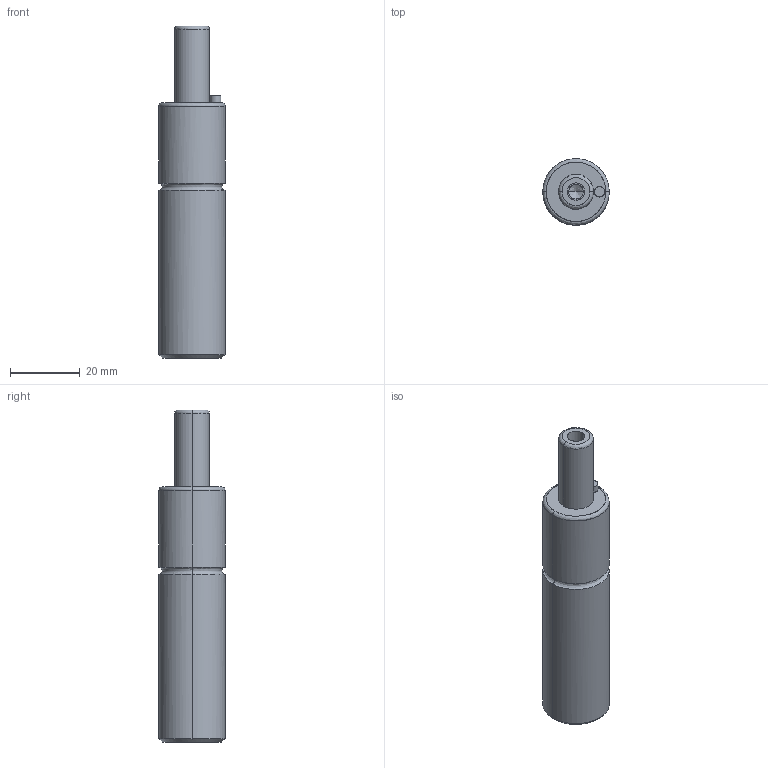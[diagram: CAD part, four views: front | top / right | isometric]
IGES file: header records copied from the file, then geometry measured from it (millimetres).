
Global section: file name: E:\UnigraphicsGraphicData\MISUMI_PRESS-PARTS\IGES\3d_gsm19-20_03907_r00.igs; native system: NX V5.0; preprocessor: UGS NX IGES V5.0; author: MISUMI; date: 20110105.160805; units: millimetre
Bounding box: 19 x 18.98 x 95 mm (x, y, z)
Surface area: 5933.9 mm2 (no closed solid volume)
Topology: 0 solids, 0 shells, 34 faces, 208 edges, 204 vertices
Faces by surface type: bspline 34
